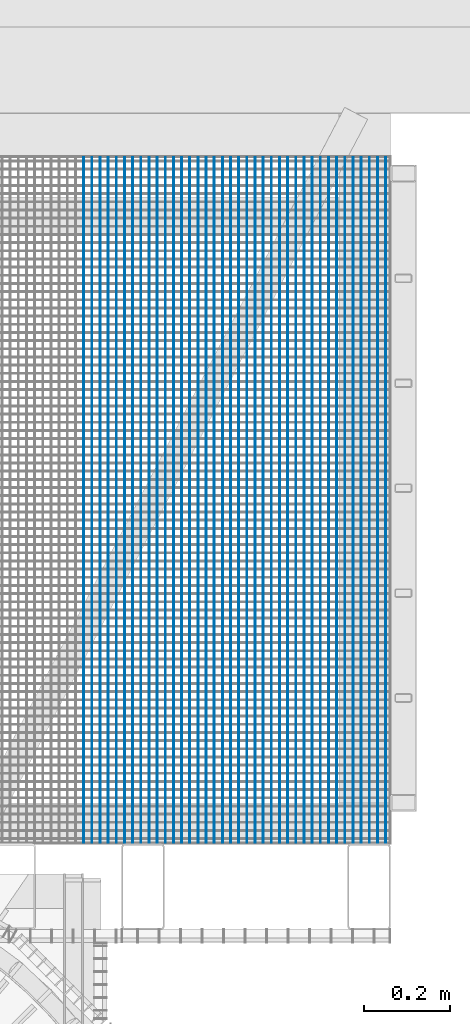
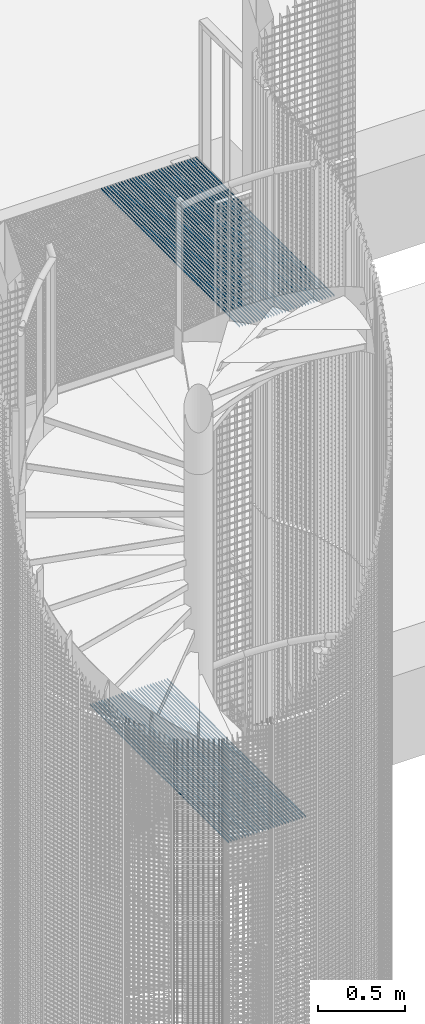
# One storey, part 101 of 1148: 62 beams, 2 elements without a shape of their own.
"""IFC2X3 building model written with IfcOpenShell, lengths in millimetres."""

from ifc_helpers import new_model, si_unit, frame, origin_with_axes, origin_2d_with_axis, place, context, subcontext, project, spatial, rectangle, extrude, material, type_object, element, aggregate, save


model = new_model("IFC2X3")

# Units and contexts
model_context = context("Model", 3, precision=1e-05, world=origin_with_axes())
body_context = subcontext(model_context, "Body", "Model", "MODEL_VIEW")
ifc_project = project(units=[si_unit("LENGTHUNIT", "METRE", prefix="MILLI"), si_unit("AREAUNIT", "SQUARE_METRE"), si_unit("VOLUMEUNIT", "CUBIC_METRE"), si_unit("MASSUNIT", "GRAM", prefix="KILO"), si_unit("TIMEUNIT", "SECOND"), si_unit("PLANEANGLEUNIT", "RADIAN"), si_unit("SOLIDANGLEUNIT", "STERADIAN"), si_unit("THERMODYNAMICTEMPERATUREUNIT", "DEGREE_CELSIUS"), si_unit("LUMINOUSINTENSITYUNIT", "LUMEN")], contexts=[model_context])

# Site, building, storey
site_placement = place(None, origin_with_axes())
site = spatial("IfcSite", under=ifc_project, at=site_placement, Name="Undefined", CompositionType="ELEMENT")
building_placement = place(site_placement, origin_with_axes())
building = spatial("IfcBuilding", under=site, at=building_placement, Name="Undefined", CompositionType="ELEMENT")
storey_placement = place(building_placement, origin_with_axes())
storey = spatial("IfcBuildingStorey", under=building, at=storey_placement, Name="Undefined", CompositionType="ELEMENT", Elevation=0.0)

# Assembly, beams
assembly_1_placement = place(storey_placement, origin_with_axes())
assembly_1 = element("IfcElementAssembly", 1, at=assembly_1_placement, inside=storey, Name="BORDURE", AssemblyPlace="NOTDEFINED", PredefinedType="NOTDEFINED")
ifc_material = material(Name="STEEL/S235JR")
beam_type = type_object("IfcBeamType", Name="PL2*10", PredefinedType="NOTDEFINED")
beam_1_placement = place(assembly_1_placement, frame((22512.1154247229, 1102.00680788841, 10085.0), z_axis=(0.0, 0.0, 1.0), x_axis=(-4.50599999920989e-06, 0.999999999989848, 0.0)))
beam_1 = element("IfcBeam", 2, at=beam_1_placement, type_object=beam_type, material=ifc_material, Name="ENTRETOISE", context=body_context, shape_type="SweptSolid", body=[
    extrude(rectangle(XDim=2.0, YDim=10.0, at=origin_2d_with_axis()), frame((1596.0000000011, -1.35186458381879e-18, -7.27595761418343e-12), z_axis=(-1.0, 0.0, 0.0), x_axis=(0.0, -1.0, 0.0)), (0.0, 0.0, 1.0), 1596.0),
])
beam_2_placement = place(assembly_1_placement, frame((22531.1154247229, 1102.00690140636, 10085.0), z_axis=(0.0, 0.0, 1.0), x_axis=(-4.50599999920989e-06, 0.999999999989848, 0.0)))
beam_2 = element("IfcBeam", 3, at=beam_2_placement, type_object=beam_type, material=ifc_material, Name="ENTRETOISE", context=body_context, shape_type="SweptSolid", body=[
    extrude(rectangle(XDim=2.0, YDim=10.0, at=origin_2d_with_axis()), frame((1596.0000000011, -1.35186458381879e-18, -7.27595761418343e-12), z_axis=(-1.0, 0.0, 0.0), x_axis=(0.0, -1.0, 0.0)), (0.0, 0.0, 1.0), 1596.0),
])
beam_3_placement = place(assembly_1_placement, frame((22550.1154247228, 1102.00699492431, 10085.0), z_axis=(0.0, 0.0, 1.0), x_axis=(-4.50599999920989e-06, 0.999999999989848, 0.0)))
beam_3 = element("IfcBeam", 4, at=beam_3_placement, type_object=beam_type, material=ifc_material, Name="ENTRETOISE", context=body_context, shape_type="SweptSolid", body=[
    extrude(rectangle(XDim=2.0, YDim=10.0, at=origin_2d_with_axis()), frame((1596.0000000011, -1.35186458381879e-18, -7.27595761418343e-12), z_axis=(-1.0, 0.0, 0.0), x_axis=(0.0, -1.0, 0.0)), (0.0, 0.0, 1.0), 1596.0),
])
beam_4_placement = place(assembly_1_placement, frame((22569.1154247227, 1102.00708844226, 10085.0), z_axis=(0.0, 0.0, 1.0), x_axis=(-4.50599999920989e-06, 0.999999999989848, 0.0)))
beam_4 = element("IfcBeam", 5, at=beam_4_placement, type_object=beam_type, material=ifc_material, Name="ENTRETOISE", context=body_context, shape_type="SweptSolid", body=[
    extrude(rectangle(XDim=2.0, YDim=10.0, at=origin_2d_with_axis()), frame((1596.0000000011, -1.35186458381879e-18, -7.27595761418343e-12), z_axis=(-1.0, 0.0, 0.0), x_axis=(0.0, -1.0, 0.0)), (0.0, 0.0, 1.0), 1596.0),
])
beam_5_placement = place(assembly_1_placement, frame((22588.1154247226, 1102.00718196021, 10085.0), z_axis=(0.0, 0.0, 1.0), x_axis=(-4.50599999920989e-06, 0.999999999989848, 0.0)))
beam_5 = element("IfcBeam", 6, at=beam_5_placement, type_object=beam_type, material=ifc_material, Name="ENTRETOISE", context=body_context, shape_type="SweptSolid", body=[
    extrude(rectangle(XDim=2.0, YDim=10.0, at=origin_2d_with_axis()), frame((1596.0000000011, -1.35186458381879e-18, -7.27595761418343e-12), z_axis=(-1.0, 0.0, 0.0), x_axis=(0.0, -1.0, 0.0)), (0.0, 0.0, 1.0), 1596.0),
])
beam_6_placement = place(assembly_1_placement, frame((22607.1154247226, 1102.00727547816, 10085.0), z_axis=(0.0, 0.0, 1.0), x_axis=(-4.50599999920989e-06, 0.999999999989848, 0.0)))
beam_6 = element("IfcBeam", 7, at=beam_6_placement, type_object=beam_type, material=ifc_material, Name="ENTRETOISE", context=body_context, shape_type="SweptSolid", body=[
    extrude(rectangle(XDim=2.0, YDim=10.0, at=origin_2d_with_axis()), frame((1596.0000000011, -1.35186458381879e-18, -7.27595761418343e-12), z_axis=(-1.0, 0.0, 0.0), x_axis=(0.0, -1.0, 0.0)), (0.0, 0.0, 1.0), 1596.0),
])
beam_7_placement = place(assembly_1_placement, frame((22626.1154247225, 1102.0073689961, 10085.0), z_axis=(0.0, 0.0, 1.0), x_axis=(-4.50599999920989e-06, 0.999999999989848, 0.0)))
beam_7 = element("IfcBeam", 8, at=beam_7_placement, type_object=beam_type, material=ifc_material, Name="ENTRETOISE", context=body_context, shape_type="SweptSolid", body=[
    extrude(rectangle(XDim=2.0, YDim=10.0, at=origin_2d_with_axis()), frame((1596.0000000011, -1.35186458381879e-18, -7.27595761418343e-12), z_axis=(-1.0, 0.0, 0.0), x_axis=(0.0, -1.0, 0.0)), (0.0, 0.0, 1.0), 1596.0),
])
beam_8_placement = place(assembly_1_placement, frame((22645.1154247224, 1102.00746251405, 10085.0), z_axis=(0.0, 0.0, 1.0), x_axis=(-4.50599999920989e-06, 0.999999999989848, 0.0)))
beam_8 = element("IfcBeam", 9, at=beam_8_placement, type_object=beam_type, material=ifc_material, Name="ENTRETOISE", context=body_context, shape_type="SweptSolid", body=[
    extrude(rectangle(XDim=2.0, YDim=10.0, at=origin_2d_with_axis()), frame((1596.0000000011, -1.35186458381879e-18, -7.27595761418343e-12), z_axis=(-1.0, 0.0, 0.0), x_axis=(0.0, -1.0, 0.0)), (0.0, 0.0, 1.0), 1596.0),
])
beam_9_placement = place(assembly_1_placement, frame((22664.1154247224, 1102.007556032, 10085.0), z_axis=(0.0, 0.0, 1.0), x_axis=(-4.50599999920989e-06, 0.999999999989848, 0.0)))
beam_9 = element("IfcBeam", 10, at=beam_9_placement, type_object=beam_type, material=ifc_material, Name="ENTRETOISE", context=body_context, shape_type="SweptSolid", body=[
    extrude(rectangle(XDim=2.0, YDim=10.0, at=origin_2d_with_axis()), frame((1596.0000000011, -1.35186458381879e-18, -7.27595761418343e-12), z_axis=(-1.0, 0.0, 0.0), x_axis=(0.0, -1.0, 0.0)), (0.0, 0.0, 1.0), 1596.0),
])
beam_10_placement = place(assembly_1_placement, frame((22683.1154247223, 1102.00764954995, 10085.0), z_axis=(0.0, 0.0, 1.0), x_axis=(-4.50599999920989e-06, 0.999999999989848, 0.0)))
beam_10 = element("IfcBeam", 11, at=beam_10_placement, type_object=beam_type, material=ifc_material, Name="ENTRETOISE", context=body_context, shape_type="SweptSolid", body=[
    extrude(rectangle(XDim=2.0, YDim=10.0, at=origin_2d_with_axis()), frame((1596.0000000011, -1.35186458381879e-18, -7.27595761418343e-12), z_axis=(-1.0, 0.0, 0.0), x_axis=(0.0, -1.0, 0.0)), (0.0, 0.0, 1.0), 1596.0),
])
beam_11_placement = place(assembly_1_placement, frame((22702.1154247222, 1102.0077430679, 10085.0), z_axis=(0.0, 0.0, 1.0), x_axis=(-4.50599999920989e-06, 0.999999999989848, 0.0)))
beam_11 = element("IfcBeam", 12, at=beam_11_placement, type_object=beam_type, material=ifc_material, Name="ENTRETOISE", context=body_context, shape_type="SweptSolid", body=[
    extrude(rectangle(XDim=2.0, YDim=10.0, at=origin_2d_with_axis()), frame((1596.0000000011, -1.35186458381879e-18, -7.27595761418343e-12), z_axis=(-1.0, 0.0, 0.0), x_axis=(0.0, -1.0, 0.0)), (0.0, 0.0, 1.0), 1596.0),
])
beam_12_placement = place(assembly_1_placement, frame((22721.1154247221, 1102.00783658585, 10085.0), z_axis=(0.0, 0.0, 1.0), x_axis=(-4.50599999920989e-06, 0.999999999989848, 0.0)))
beam_12 = element("IfcBeam", 13, at=beam_12_placement, type_object=beam_type, material=ifc_material, Name="ENTRETOISE", context=body_context, shape_type="SweptSolid", body=[
    extrude(rectangle(XDim=2.0, YDim=10.0, at=origin_2d_with_axis()), frame((1596.0000000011, -1.35186458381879e-18, -7.27595761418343e-12), z_axis=(-1.0, 0.0, 0.0), x_axis=(0.0, -1.0, 0.0)), (0.0, 0.0, 1.0), 1596.0),
])
beam_13_placement = place(assembly_1_placement, frame((22740.1154247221, 1102.0079301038, 10085.0), z_axis=(0.0, 0.0, 1.0), x_axis=(-4.50599999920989e-06, 0.999999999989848, 0.0)))
beam_13 = element("IfcBeam", 14, at=beam_13_placement, type_object=beam_type, material=ifc_material, Name="ENTRETOISE", context=body_context, shape_type="SweptSolid", body=[
    extrude(rectangle(XDim=2.0, YDim=10.0, at=origin_2d_with_axis()), frame((1596.0000000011, -1.35186458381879e-18, -7.27595761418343e-12), z_axis=(-1.0, 0.0, 0.0), x_axis=(0.0, -1.0, 0.0)), (0.0, 0.0, 1.0), 1596.0),
])
beam_14_placement = place(assembly_1_placement, frame((22759.115424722, 1102.00802362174, 10085.0), z_axis=(0.0, 0.0, 1.0), x_axis=(-4.50599999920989e-06, 0.999999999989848, 0.0)))
beam_14 = element("IfcBeam", 15, at=beam_14_placement, type_object=beam_type, material=ifc_material, Name="ENTRETOISE", context=body_context, shape_type="SweptSolid", body=[
    extrude(rectangle(XDim=2.0, YDim=10.0, at=origin_2d_with_axis()), frame((1596.0000000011, -1.35186458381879e-18, -7.27595761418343e-12), z_axis=(-1.0, 0.0, 0.0), x_axis=(0.0, -1.0, 0.0)), (0.0, 0.0, 1.0), 1596.0),
])
beam_15_placement = place(assembly_1_placement, frame((22778.1154247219, 1102.00811713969, 10085.0), z_axis=(0.0, 0.0, 1.0), x_axis=(-4.50599999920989e-06, 0.999999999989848, 0.0)))
beam_15 = element("IfcBeam", 16, at=beam_15_placement, type_object=beam_type, material=ifc_material, Name="ENTRETOISE", context=body_context, shape_type="SweptSolid", body=[
    extrude(rectangle(XDim=2.0, YDim=10.0, at=origin_2d_with_axis()), frame((1596.0000000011, -1.35186458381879e-18, -7.27595761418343e-12), z_axis=(-1.0, 0.0, 0.0), x_axis=(0.0, -1.0, 0.0)), (0.0, 0.0, 1.0), 1596.0),
])
beam_16_placement = place(assembly_1_placement, frame((22797.1154247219, 1102.00821065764, 10085.0), z_axis=(0.0, 0.0, 1.0), x_axis=(-4.50599999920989e-06, 0.999999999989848, 0.0)))
beam_16 = element("IfcBeam", 17, at=beam_16_placement, type_object=beam_type, material=ifc_material, Name="ENTRETOISE", context=body_context, shape_type="SweptSolid", body=[
    extrude(rectangle(XDim=2.0, YDim=10.0, at=origin_2d_with_axis()), frame((1596.0000000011, -1.35186458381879e-18, -7.27595761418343e-12), z_axis=(-1.0, 0.0, 0.0), x_axis=(0.0, -1.0, 0.0)), (0.0, 0.0, 1.0), 1596.0),
])
beam_17_placement = place(assembly_1_placement, frame((22816.1154247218, 1102.00830417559, 10085.0), z_axis=(0.0, 0.0, 1.0), x_axis=(-4.50599999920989e-06, 0.999999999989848, 0.0)))
beam_17 = element("IfcBeam", 18, at=beam_17_placement, type_object=beam_type, material=ifc_material, Name="ENTRETOISE", context=body_context, shape_type="SweptSolid", body=[
    extrude(rectangle(XDim=2.0, YDim=10.0, at=origin_2d_with_axis()), frame((1596.0000000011, -1.35186458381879e-18, -7.27595761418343e-12), z_axis=(-1.0, 0.0, 0.0), x_axis=(0.0, -1.0, 0.0)), (0.0, 0.0, 1.0), 1596.0),
])
beam_18_placement = place(assembly_1_placement, frame((22835.1154247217, 1102.00839769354, 10085.0), z_axis=(0.0, 0.0, 1.0), x_axis=(-4.50599999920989e-06, 0.999999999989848, 0.0)))
beam_18 = element("IfcBeam", 19, at=beam_18_placement, type_object=beam_type, material=ifc_material, Name="ENTRETOISE", context=body_context, shape_type="SweptSolid", body=[
    extrude(rectangle(XDim=2.0, YDim=10.0, at=origin_2d_with_axis()), frame((1596.0000000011, -1.35186458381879e-18, -7.27595761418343e-12), z_axis=(-1.0, 0.0, 0.0), x_axis=(0.0, -1.0, 0.0)), (0.0, 0.0, 1.0), 1596.0),
])
beam_19_placement = place(assembly_1_placement, frame((22854.1154247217, 1102.00849121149, 10085.0), z_axis=(0.0, 0.0, 1.0), x_axis=(-4.50599999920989e-06, 0.999999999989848, 0.0)))
beam_19 = element("IfcBeam", 20, at=beam_19_placement, type_object=beam_type, material=ifc_material, Name="ENTRETOISE", context=body_context, shape_type="SweptSolid", body=[
    extrude(rectangle(XDim=2.0, YDim=10.0, at=origin_2d_with_axis()), frame((1596.0000000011, -1.35186458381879e-18, -7.27595761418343e-12), z_axis=(-1.0, 0.0, 0.0), x_axis=(0.0, -1.0, 0.0)), (0.0, 0.0, 1.0), 1596.0),
])
beam_20_placement = place(assembly_1_placement, frame((22873.1154247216, 1102.00858472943, 10085.0), z_axis=(0.0, 0.0, 1.0), x_axis=(-4.50599999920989e-06, 0.999999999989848, 0.0)))
beam_20 = element("IfcBeam", 21, at=beam_20_placement, type_object=beam_type, material=ifc_material, Name="ENTRETOISE", context=body_context, shape_type="SweptSolid", body=[
    extrude(rectangle(XDim=2.0, YDim=10.0, at=origin_2d_with_axis()), frame((1596.0000000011, -1.35186458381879e-18, -7.27595761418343e-12), z_axis=(-1.0, 0.0, 0.0), x_axis=(0.0, -1.0, 0.0)), (0.0, 0.0, 1.0), 1596.0),
])
beam_21_placement = place(assembly_1_placement, frame((22892.1154247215, 1102.00867824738, 10085.0), z_axis=(0.0, 0.0, 1.0), x_axis=(-4.50599999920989e-06, 0.999999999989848, 0.0)))
beam_21 = element("IfcBeam", 22, at=beam_21_placement, type_object=beam_type, material=ifc_material, Name="ENTRETOISE", context=body_context, shape_type="SweptSolid", body=[
    extrude(rectangle(XDim=2.0, YDim=10.0, at=origin_2d_with_axis()), frame((1596.0000000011, -1.35186458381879e-18, -7.27595761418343e-12), z_axis=(-1.0, 0.0, 0.0), x_axis=(0.0, -1.0, 0.0)), (0.0, 0.0, 1.0), 1596.0),
])
beam_22_placement = place(assembly_1_placement, frame((22911.1154247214, 1102.00877176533, 10085.0), z_axis=(0.0, 0.0, 1.0), x_axis=(-4.50599999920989e-06, 0.999999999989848, 0.0)))
beam_22 = element("IfcBeam", 23, at=beam_22_placement, type_object=beam_type, material=ifc_material, Name="ENTRETOISE", context=body_context, shape_type="SweptSolid", body=[
    extrude(rectangle(XDim=2.0, YDim=10.0, at=origin_2d_with_axis()), frame((1596.0000000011, -1.35186458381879e-18, -7.27595761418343e-12), z_axis=(-1.0, 0.0, 0.0), x_axis=(0.0, -1.0, 0.0)), (0.0, 0.0, 1.0), 1596.0),
])
beam_23_placement = place(assembly_1_placement, frame((22930.1154247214, 1102.00886528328, 10085.0), z_axis=(0.0, 0.0, 1.0), x_axis=(-4.50599999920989e-06, 0.999999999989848, 0.0)))
beam_23 = element("IfcBeam", 24, at=beam_23_placement, type_object=beam_type, material=ifc_material, Name="ENTRETOISE", context=body_context, shape_type="SweptSolid", body=[
    extrude(rectangle(XDim=2.0, YDim=10.0, at=origin_2d_with_axis()), frame((1596.0000000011, -1.35186458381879e-18, -7.27595761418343e-12), z_axis=(-1.0, 0.0, 0.0), x_axis=(0.0, -1.0, 0.0)), (0.0, 0.0, 1.0), 1596.0),
])
beam_24_placement = place(assembly_1_placement, frame((22949.1154247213, 1102.00895880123, 10085.0), z_axis=(0.0, 0.0, 1.0), x_axis=(-4.50599999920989e-06, 0.999999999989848, 0.0)))
beam_24 = element("IfcBeam", 25, at=beam_24_placement, type_object=beam_type, material=ifc_material, Name="ENTRETOISE", context=body_context, shape_type="SweptSolid", body=[
    extrude(rectangle(XDim=2.0, YDim=10.0, at=origin_2d_with_axis()), frame((1596.0000000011, -1.35186458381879e-18, -7.27595761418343e-12), z_axis=(-1.0, 0.0, 0.0), x_axis=(0.0, -1.0, 0.0)), (0.0, 0.0, 1.0), 1596.0),
])
beam_25_placement = place(assembly_1_placement, frame((22968.1154247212, 1102.00905231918, 10085.0), z_axis=(0.0, 0.0, 1.0), x_axis=(-4.50599999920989e-06, 0.999999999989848, 0.0)))
beam_25 = element("IfcBeam", 26, at=beam_25_placement, type_object=beam_type, material=ifc_material, Name="ENTRETOISE", context=body_context, shape_type="SweptSolid", body=[
    extrude(rectangle(XDim=2.0, YDim=10.0, at=origin_2d_with_axis()), frame((1596.0000000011, -1.35186458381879e-18, -7.27595761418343e-12), z_axis=(-1.0, 0.0, 0.0), x_axis=(0.0, -1.0, 0.0)), (0.0, 0.0, 1.0), 1596.0),
])
beam_26_placement = place(assembly_1_placement, frame((22987.1154247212, 1102.00914583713, 10085.0), z_axis=(0.0, 0.0, 1.0), x_axis=(-4.50599999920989e-06, 0.999999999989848, 0.0)))
beam_26 = element("IfcBeam", 27, at=beam_26_placement, type_object=beam_type, material=ifc_material, Name="ENTRETOISE", context=body_context, shape_type="SweptSolid", body=[
    extrude(rectangle(XDim=2.0, YDim=10.0, at=origin_2d_with_axis()), frame((1596.0000000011, -1.35186458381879e-18, -7.27595761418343e-12), z_axis=(-1.0, 0.0, 0.0), x_axis=(0.0, -1.0, 0.0)), (0.0, 0.0, 1.0), 1596.0),
])
beam_27_placement = place(assembly_1_placement, frame((23006.1154247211, 1102.00923935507, 10085.0), z_axis=(0.0, 0.0, 1.0), x_axis=(-4.50599999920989e-06, 0.999999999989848, 0.0)))
beam_27 = element("IfcBeam", 28, at=beam_27_placement, type_object=beam_type, material=ifc_material, Name="ENTRETOISE", context=body_context, shape_type="SweptSolid", body=[
    extrude(rectangle(XDim=2.0, YDim=10.0, at=origin_2d_with_axis()), frame((1596.0000000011, -1.35186458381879e-18, -7.27595761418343e-12), z_axis=(-1.0, 0.0, 0.0), x_axis=(0.0, -1.0, 0.0)), (0.0, 0.0, 1.0), 1596.0),
])
beam_28_placement = place(assembly_1_placement, frame((23025.115424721, 1102.00933287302, 10085.0), z_axis=(0.0, 0.0, 1.0), x_axis=(-4.50599999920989e-06, 0.999999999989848, 0.0)))
beam_28 = element("IfcBeam", 29, at=beam_28_placement, type_object=beam_type, material=ifc_material, Name="ENTRETOISE", context=body_context, shape_type="SweptSolid", body=[
    extrude(rectangle(XDim=2.0, YDim=10.0, at=origin_2d_with_axis()), frame((1596.0000000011, -1.35186458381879e-18, -7.27595761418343e-12), z_axis=(-1.0, 0.0, 0.0), x_axis=(0.0, -1.0, 0.0)), (0.0, 0.0, 1.0), 1596.0),
])
beam_29_placement = place(assembly_1_placement, frame((23044.1154247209, 1102.00942639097, 10085.0), z_axis=(0.0, 0.0, 1.0), x_axis=(-4.50599999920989e-06, 0.999999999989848, 0.0)))
beam_29 = element("IfcBeam", 30, at=beam_29_placement, type_object=beam_type, material=ifc_material, Name="ENTRETOISE", context=body_context, shape_type="SweptSolid", body=[
    extrude(rectangle(XDim=2.0, YDim=10.0, at=origin_2d_with_axis()), frame((1596.0000000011, -1.35186458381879e-18, -7.27595761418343e-12), z_axis=(-1.0, 0.0, 0.0), x_axis=(0.0, -1.0, 0.0)), (0.0, 0.0, 1.0), 1596.0),
])
beam_30_placement = place(assembly_1_placement, frame((23063.1154247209, 1102.00951990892, 10085.0), z_axis=(0.0, 0.0, 1.0), x_axis=(-4.50599999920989e-06, 0.999999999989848, 0.0)))
beam_30 = element("IfcBeam", 31, at=beam_30_placement, type_object=beam_type, material=ifc_material, Name="ENTRETOISE", context=body_context, shape_type="SweptSolid", body=[
    extrude(rectangle(XDim=2.0, YDim=10.0, at=origin_2d_with_axis()), frame((1596.0000000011, -1.35186458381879e-18, -7.27595761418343e-12), z_axis=(-1.0, 0.0, 0.0), x_axis=(0.0, -1.0, 0.0)), (0.0, 0.0, 1.0), 1596.0),
])
beam_31_placement = place(assembly_1_placement, frame((23082.1154247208, 1102.00961342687, 10085.0), z_axis=(0.0, 0.0, 1.0), x_axis=(-4.50599999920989e-06, 0.999999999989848, 0.0)))
beam_31 = element("IfcBeam", 32, at=beam_31_placement, type_object=beam_type, material=ifc_material, Name="ENTRETOISE", context=body_context, shape_type="SweptSolid", body=[
    extrude(rectangle(XDim=2.0, YDim=10.0, at=origin_2d_with_axis()), frame((1596.0000000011, -1.35186458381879e-18, -7.27595761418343e-12), z_axis=(-1.0, 0.0, 0.0), x_axis=(0.0, -1.0, 0.0)), (0.0, 0.0, 1.0), 1596.0),
])
beam_32_placement = place(assembly_1_placement, frame((23101.1154247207, 1102.00970694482, 10085.0), z_axis=(0.0, 0.0, 1.0), x_axis=(-4.50599999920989e-06, 0.999999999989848, 0.0)))
beam_32 = element("IfcBeam", 33, at=beam_32_placement, type_object=beam_type, material=ifc_material, Name="ENTRETOISE", context=body_context, shape_type="SweptSolid", body=[
    extrude(rectangle(XDim=2.0, YDim=10.0, at=origin_2d_with_axis()), frame((1596.0000000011, -1.35186458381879e-18, -7.27595761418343e-12), z_axis=(-1.0, 0.0, 0.0), x_axis=(0.0, -1.0, 0.0)), (0.0, 0.0, 1.0), 1596.0),
])
beam_33_placement = place(assembly_1_placement, frame((23120.1154247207, 1102.00980046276, 10085.0), z_axis=(0.0, 0.0, 1.0), x_axis=(-4.50599999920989e-06, 0.999999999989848, 0.0)))
beam_33 = element("IfcBeam", 34, at=beam_33_placement, type_object=beam_type, material=ifc_material, Name="ENTRETOISE", context=body_context, shape_type="SweptSolid", body=[
    extrude(rectangle(XDim=2.0, YDim=10.0, at=origin_2d_with_axis()), frame((1596.0000000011, -1.35186458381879e-18, -7.27595761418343e-12), z_axis=(-1.0, 0.0, 0.0), x_axis=(0.0, -1.0, 0.0)), (0.0, 0.0, 1.0), 1596.0),
])
beam_34_placement = place(assembly_1_placement, frame((23139.1154247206, 1102.00989398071, 10085.0), z_axis=(0.0, 0.0, 1.0), x_axis=(-4.50599999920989e-06, 0.999999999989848, 0.0)))
beam_34 = element("IfcBeam", 35, at=beam_34_placement, type_object=beam_type, material=ifc_material, Name="ENTRETOISE", context=body_context, shape_type="SweptSolid", body=[
    extrude(rectangle(XDim=2.0, YDim=10.0, at=origin_2d_with_axis()), frame((1596.0000000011, -1.35186458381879e-18, -7.27595761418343e-12), z_axis=(-1.0, 0.0, 0.0), x_axis=(0.0, -1.0, 0.0)), (0.0, 0.0, 1.0), 1596.0),
])
aggregate(assembly_1, [beam_1, beam_2, beam_3, beam_4, beam_5, beam_6, beam_7, beam_8, beam_9, beam_10, beam_11, beam_12, beam_13, beam_14, beam_15, beam_16, beam_17, beam_18, beam_19, beam_20, beam_21, beam_22, beam_23, beam_24, beam_25, beam_26, beam_27, beam_28, beam_29, beam_30, beam_31, beam_32, beam_33, beam_34])

assembly_2_placement = place(storey_placement, origin_with_axes())
assembly_2 = element("IfcElementAssembly", 36, at=assembly_2_placement, inside=storey, Name="BORDURE", AssemblyPlace="NOTDEFINED", PredefinedType="NOTDEFINED")
beam_35_placement = place(assembly_2_placement, frame((22436.1154247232, 1102.00643381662, 6485.0), z_axis=(0.0, 0.0, 1.0), x_axis=(-4.50599999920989e-06, 0.999999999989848, 0.0)))
beam_35 = element("IfcBeam", 37, at=beam_35_placement, type_object=beam_type, material=ifc_material, Name="ENTRETOISE", context=body_context, shape_type="SweptSolid", body=[
    extrude(rectangle(XDim=2.0, YDim=10.0, at=origin_2d_with_axis()), frame((1596.0000000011, -1.35186458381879e-18, -7.27595761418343e-12), z_axis=(-1.0, 0.0, 0.0), x_axis=(0.0, -1.0, 0.0)), (0.0, 0.0, 1.0), 1596.0),
])
beam_36_placement = place(assembly_2_placement, frame((22455.1154247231, 1102.00652733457, 6485.0), z_axis=(0.0, 0.0, 1.0), x_axis=(-4.50599999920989e-06, 0.999999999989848, 0.0)))
beam_36 = element("IfcBeam", 38, at=beam_36_placement, type_object=beam_type, material=ifc_material, Name="ENTRETOISE", context=body_context, shape_type="SweptSolid", body=[
    extrude(rectangle(XDim=2.0, YDim=10.0, at=origin_2d_with_axis()), frame((1596.0000000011, -1.35186458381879e-18, -7.27595761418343e-12), z_axis=(-1.0, 0.0, 0.0), x_axis=(0.0, -1.0, 0.0)), (0.0, 0.0, 1.0), 1596.0),
])
beam_37_placement = place(assembly_2_placement, frame((22474.1154247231, 1102.00662085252, 6485.0), z_axis=(0.0, 0.0, 1.0), x_axis=(-4.50599999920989e-06, 0.999999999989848, 0.0)))
beam_37 = element("IfcBeam", 39, at=beam_37_placement, type_object=beam_type, material=ifc_material, Name="ENTRETOISE", context=body_context, shape_type="SweptSolid", body=[
    extrude(rectangle(XDim=2.0, YDim=10.0, at=origin_2d_with_axis()), frame((1596.0000000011, -1.35186458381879e-18, -7.27595761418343e-12), z_axis=(-1.0, 0.0, 0.0), x_axis=(0.0, -1.0, 0.0)), (0.0, 0.0, 1.0), 1596.0),
])
beam_38_placement = place(assembly_2_placement, frame((22493.115424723, 1102.00671437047, 6485.0), z_axis=(0.0, 0.0, 1.0), x_axis=(-4.50599999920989e-06, 0.999999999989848, 0.0)))
beam_38 = element("IfcBeam", 40, at=beam_38_placement, type_object=beam_type, material=ifc_material, Name="ENTRETOISE", context=body_context, shape_type="SweptSolid", body=[
    extrude(rectangle(XDim=2.0, YDim=10.0, at=origin_2d_with_axis()), frame((1596.0000000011, -1.35186458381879e-18, -7.27595761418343e-12), z_axis=(-1.0, 0.0, 0.0), x_axis=(0.0, -1.0, 0.0)), (0.0, 0.0, 1.0), 1596.0),
])
beam_39_placement = place(assembly_2_placement, frame((22512.1154247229, 1102.00680788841, 6485.0), z_axis=(0.0, 0.0, 1.0), x_axis=(-4.50599999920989e-06, 0.999999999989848, 0.0)))
beam_39 = element("IfcBeam", 41, at=beam_39_placement, type_object=beam_type, material=ifc_material, Name="ENTRETOISE", context=body_context, shape_type="SweptSolid", body=[
    extrude(rectangle(XDim=2.0, YDim=10.0, at=origin_2d_with_axis()), frame((1596.0000000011, -1.35186458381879e-18, -7.27595761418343e-12), z_axis=(-1.0, 0.0, 0.0), x_axis=(0.0, -1.0, 0.0)), (0.0, 0.0, 1.0), 1596.0),
])
beam_40_placement = place(assembly_2_placement, frame((22531.1154247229, 1102.00690140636, 6485.0), z_axis=(0.0, 0.0, 1.0), x_axis=(-4.50599999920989e-06, 0.999999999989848, 0.0)))
beam_40 = element("IfcBeam", 42, at=beam_40_placement, type_object=beam_type, material=ifc_material, Name="ENTRETOISE", context=body_context, shape_type="SweptSolid", body=[
    extrude(rectangle(XDim=2.0, YDim=10.0, at=origin_2d_with_axis()), frame((1596.0000000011, -1.35186458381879e-18, -7.27595761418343e-12), z_axis=(-1.0, 0.0, 0.0), x_axis=(0.0, -1.0, 0.0)), (0.0, 0.0, 1.0), 1596.0),
])
beam_41_placement = place(assembly_2_placement, frame((22550.1154247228, 1102.00699492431, 6485.0), z_axis=(0.0, 0.0, 1.0), x_axis=(-4.50599999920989e-06, 0.999999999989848, 0.0)))
beam_41 = element("IfcBeam", 43, at=beam_41_placement, type_object=beam_type, material=ifc_material, Name="ENTRETOISE", context=body_context, shape_type="SweptSolid", body=[
    extrude(rectangle(XDim=2.0, YDim=10.0, at=origin_2d_with_axis()), frame((1596.0000000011, -1.35186458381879e-18, -7.27595761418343e-12), z_axis=(-1.0, 0.0, 0.0), x_axis=(0.0, -1.0, 0.0)), (0.0, 0.0, 1.0), 1596.0),
])
beam_42_placement = place(assembly_2_placement, frame((22569.1154247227, 1102.00708844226, 6485.0), z_axis=(0.0, 0.0, 1.0), x_axis=(-4.50599999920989e-06, 0.999999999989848, 0.0)))
beam_42 = element("IfcBeam", 44, at=beam_42_placement, type_object=beam_type, material=ifc_material, Name="ENTRETOISE", context=body_context, shape_type="SweptSolid", body=[
    extrude(rectangle(XDim=2.0, YDim=10.0, at=origin_2d_with_axis()), frame((1596.0000000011, -1.35186458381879e-18, -7.27595761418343e-12), z_axis=(-1.0, 0.0, 0.0), x_axis=(0.0, -1.0, 0.0)), (0.0, 0.0, 1.0), 1596.0),
])
beam_43_placement = place(assembly_2_placement, frame((22588.1154247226, 1102.00718196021, 6485.0), z_axis=(0.0, 0.0, 1.0), x_axis=(-4.50599999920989e-06, 0.999999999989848, 0.0)))
beam_43 = element("IfcBeam", 45, at=beam_43_placement, type_object=beam_type, material=ifc_material, Name="ENTRETOISE", context=body_context, shape_type="SweptSolid", body=[
    extrude(rectangle(XDim=2.0, YDim=10.0, at=origin_2d_with_axis()), frame((1596.0000000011, -1.35186458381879e-18, -7.27595761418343e-12), z_axis=(-1.0, 0.0, 0.0), x_axis=(0.0, -1.0, 0.0)), (0.0, 0.0, 1.0), 1596.0),
])
beam_44_placement = place(assembly_2_placement, frame((22607.1154247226, 1102.00727547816, 6485.0), z_axis=(0.0, 0.0, 1.0), x_axis=(-4.50599999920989e-06, 0.999999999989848, 0.0)))
beam_44 = element("IfcBeam", 46, at=beam_44_placement, type_object=beam_type, material=ifc_material, Name="ENTRETOISE", context=body_context, shape_type="SweptSolid", body=[
    extrude(rectangle(XDim=2.0, YDim=10.0, at=origin_2d_with_axis()), frame((1596.0000000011, -1.35186458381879e-18, -7.27595761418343e-12), z_axis=(-1.0, 0.0, 0.0), x_axis=(0.0, -1.0, 0.0)), (0.0, 0.0, 1.0), 1596.0),
])
beam_45_placement = place(assembly_2_placement, frame((22626.1154247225, 1102.0073689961, 6485.0), z_axis=(0.0, 0.0, 1.0), x_axis=(-4.50599999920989e-06, 0.999999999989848, 0.0)))
beam_45 = element("IfcBeam", 47, at=beam_45_placement, type_object=beam_type, material=ifc_material, Name="ENTRETOISE", context=body_context, shape_type="SweptSolid", body=[
    extrude(rectangle(XDim=2.0, YDim=10.0, at=origin_2d_with_axis()), frame((1596.0000000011, -1.35186458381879e-18, -7.27595761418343e-12), z_axis=(-1.0, 0.0, 0.0), x_axis=(0.0, -1.0, 0.0)), (0.0, 0.0, 1.0), 1596.0),
])
beam_46_placement = place(assembly_2_placement, frame((22645.1154247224, 1102.00746251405, 6485.0), z_axis=(0.0, 0.0, 1.0), x_axis=(-4.50599999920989e-06, 0.999999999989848, 0.0)))
beam_46 = element("IfcBeam", 48, at=beam_46_placement, type_object=beam_type, material=ifc_material, Name="ENTRETOISE", context=body_context, shape_type="SweptSolid", body=[
    extrude(rectangle(XDim=2.0, YDim=10.0, at=origin_2d_with_axis()), frame((1596.0000000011, -1.35186458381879e-18, -7.27595761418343e-12), z_axis=(-1.0, 0.0, 0.0), x_axis=(0.0, -1.0, 0.0)), (0.0, 0.0, 1.0), 1596.0),
])
beam_47_placement = place(assembly_2_placement, frame((22664.1154247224, 1102.007556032, 6485.0), z_axis=(0.0, 0.0, 1.0), x_axis=(-4.50599999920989e-06, 0.999999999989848, 0.0)))
beam_47 = element("IfcBeam", 49, at=beam_47_placement, type_object=beam_type, material=ifc_material, Name="ENTRETOISE", context=body_context, shape_type="SweptSolid", body=[
    extrude(rectangle(XDim=2.0, YDim=10.0, at=origin_2d_with_axis()), frame((1596.0000000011, -1.35186458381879e-18, -7.27595761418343e-12), z_axis=(-1.0, 0.0, 0.0), x_axis=(0.0, -1.0, 0.0)), (0.0, 0.0, 1.0), 1596.0),
])
beam_48_placement = place(assembly_2_placement, frame((22683.1154247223, 1102.00764954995, 6485.0), z_axis=(0.0, 0.0, 1.0), x_axis=(-4.50599999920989e-06, 0.999999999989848, 0.0)))
beam_48 = element("IfcBeam", 50, at=beam_48_placement, type_object=beam_type, material=ifc_material, Name="ENTRETOISE", context=body_context, shape_type="SweptSolid", body=[
    extrude(rectangle(XDim=2.0, YDim=10.0, at=origin_2d_with_axis()), frame((1596.0000000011, -1.35186458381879e-18, -7.27595761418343e-12), z_axis=(-1.0, 0.0, 0.0), x_axis=(0.0, -1.0, 0.0)), (0.0, 0.0, 1.0), 1596.0),
])
beam_49_placement = place(assembly_2_placement, frame((22702.1154247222, 1102.0077430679, 6485.0), z_axis=(0.0, 0.0, 1.0), x_axis=(-4.50599999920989e-06, 0.999999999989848, 0.0)))
beam_49 = element("IfcBeam", 51, at=beam_49_placement, type_object=beam_type, material=ifc_material, Name="ENTRETOISE", context=body_context, shape_type="SweptSolid", body=[
    extrude(rectangle(XDim=2.0, YDim=10.0, at=origin_2d_with_axis()), frame((1596.0000000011, -1.35186458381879e-18, -7.27595761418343e-12), z_axis=(-1.0, 0.0, 0.0), x_axis=(0.0, -1.0, 0.0)), (0.0, 0.0, 1.0), 1596.0),
])
beam_50_placement = place(assembly_2_placement, frame((22721.1154247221, 1102.00783658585, 6485.0), z_axis=(0.0, 0.0, 1.0), x_axis=(-4.50599999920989e-06, 0.999999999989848, 0.0)))
beam_50 = element("IfcBeam", 52, at=beam_50_placement, type_object=beam_type, material=ifc_material, Name="ENTRETOISE", context=body_context, shape_type="SweptSolid", body=[
    extrude(rectangle(XDim=2.0, YDim=10.0, at=origin_2d_with_axis()), frame((1596.0000000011, -1.35186458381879e-18, -7.27595761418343e-12), z_axis=(-1.0, 0.0, 0.0), x_axis=(0.0, -1.0, 0.0)), (0.0, 0.0, 1.0), 1596.0),
])
beam_51_placement = place(assembly_2_placement, frame((22740.1154247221, 1102.0079301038, 6485.0), z_axis=(0.0, 0.0, 1.0), x_axis=(-4.50599999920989e-06, 0.999999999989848, 0.0)))
beam_51 = element("IfcBeam", 53, at=beam_51_placement, type_object=beam_type, material=ifc_material, Name="ENTRETOISE", context=body_context, shape_type="SweptSolid", body=[
    extrude(rectangle(XDim=2.0, YDim=10.0, at=origin_2d_with_axis()), frame((1596.0000000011, -1.35186458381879e-18, -7.27595761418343e-12), z_axis=(-1.0, 0.0, 0.0), x_axis=(0.0, -1.0, 0.0)), (0.0, 0.0, 1.0), 1596.0),
])
beam_52_placement = place(assembly_2_placement, frame((22759.115424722, 1102.00802362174, 6485.0), z_axis=(0.0, 0.0, 1.0), x_axis=(-4.50599999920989e-06, 0.999999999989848, 0.0)))
beam_52 = element("IfcBeam", 54, at=beam_52_placement, type_object=beam_type, material=ifc_material, Name="ENTRETOISE", context=body_context, shape_type="SweptSolid", body=[
    extrude(rectangle(XDim=2.0, YDim=10.0, at=origin_2d_with_axis()), frame((1596.0000000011, -1.35186458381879e-18, -7.27595761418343e-12), z_axis=(-1.0, 0.0, 0.0), x_axis=(0.0, -1.0, 0.0)), (0.0, 0.0, 1.0), 1596.0),
])
beam_53_placement = place(assembly_2_placement, frame((22778.1154247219, 1102.00811713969, 6485.0), z_axis=(0.0, 0.0, 1.0), x_axis=(-4.50599999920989e-06, 0.999999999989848, 0.0)))
beam_53 = element("IfcBeam", 55, at=beam_53_placement, type_object=beam_type, material=ifc_material, Name="ENTRETOISE", context=body_context, shape_type="SweptSolid", body=[
    extrude(rectangle(XDim=2.0, YDim=10.0, at=origin_2d_with_axis()), frame((1596.0000000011, -1.35186458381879e-18, -7.27595761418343e-12), z_axis=(-1.0, 0.0, 0.0), x_axis=(0.0, -1.0, 0.0)), (0.0, 0.0, 1.0), 1596.0),
])
beam_54_placement = place(assembly_2_placement, frame((22797.1154247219, 1102.00821065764, 6485.0), z_axis=(0.0, 0.0, 1.0), x_axis=(-4.50599999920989e-06, 0.999999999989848, 0.0)))
beam_54 = element("IfcBeam", 56, at=beam_54_placement, type_object=beam_type, material=ifc_material, Name="ENTRETOISE", context=body_context, shape_type="SweptSolid", body=[
    extrude(rectangle(XDim=2.0, YDim=10.0, at=origin_2d_with_axis()), frame((1596.0000000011, -1.35186458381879e-18, -7.27595761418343e-12), z_axis=(-1.0, 0.0, 0.0), x_axis=(0.0, -1.0, 0.0)), (0.0, 0.0, 1.0), 1596.0),
])
beam_55_placement = place(assembly_2_placement, frame((22816.1154247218, 1102.00830417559, 6485.0), z_axis=(0.0, 0.0, 1.0), x_axis=(-4.50599999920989e-06, 0.999999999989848, 0.0)))
beam_55 = element("IfcBeam", 57, at=beam_55_placement, type_object=beam_type, material=ifc_material, Name="ENTRETOISE", context=body_context, shape_type="SweptSolid", body=[
    extrude(rectangle(XDim=2.0, YDim=10.0, at=origin_2d_with_axis()), frame((1596.0000000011, -1.35186458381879e-18, -7.27595761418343e-12), z_axis=(-1.0, 0.0, 0.0), x_axis=(0.0, -1.0, 0.0)), (0.0, 0.0, 1.0), 1596.0),
])
beam_56_placement = place(assembly_2_placement, frame((22835.1154247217, 1102.00839769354, 6485.0), z_axis=(0.0, 0.0, 1.0), x_axis=(-4.50599999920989e-06, 0.999999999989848, 0.0)))
beam_56 = element("IfcBeam", 58, at=beam_56_placement, type_object=beam_type, material=ifc_material, Name="ENTRETOISE", context=body_context, shape_type="SweptSolid", body=[
    extrude(rectangle(XDim=2.0, YDim=10.0, at=origin_2d_with_axis()), frame((1596.0000000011, -1.35186458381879e-18, -7.27595761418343e-12), z_axis=(-1.0, 0.0, 0.0), x_axis=(0.0, -1.0, 0.0)), (0.0, 0.0, 1.0), 1596.0),
])
beam_57_placement = place(assembly_2_placement, frame((22854.1154247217, 1102.00849121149, 6485.0), z_axis=(0.0, 0.0, 1.0), x_axis=(-4.50599999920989e-06, 0.999999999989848, 0.0)))
beam_57 = element("IfcBeam", 59, at=beam_57_placement, type_object=beam_type, material=ifc_material, Name="ENTRETOISE", context=body_context, shape_type="SweptSolid", body=[
    extrude(rectangle(XDim=2.0, YDim=10.0, at=origin_2d_with_axis()), frame((1596.0000000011, -1.35186458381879e-18, -7.27595761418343e-12), z_axis=(-1.0, 0.0, 0.0), x_axis=(0.0, -1.0, 0.0)), (0.0, 0.0, 1.0), 1596.0),
])
beam_58_placement = place(assembly_2_placement, frame((22873.1154247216, 1102.00858472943, 6485.0), z_axis=(0.0, 0.0, 1.0), x_axis=(-4.50599999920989e-06, 0.999999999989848, 0.0)))
beam_58 = element("IfcBeam", 60, at=beam_58_placement, type_object=beam_type, material=ifc_material, Name="ENTRETOISE", context=body_context, shape_type="SweptSolid", body=[
    extrude(rectangle(XDim=2.0, YDim=10.0, at=origin_2d_with_axis()), frame((1596.0000000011, -1.35186458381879e-18, -7.27595761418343e-12), z_axis=(-1.0, 0.0, 0.0), x_axis=(0.0, -1.0, 0.0)), (0.0, 0.0, 1.0), 1596.0),
])
beam_59_placement = place(assembly_2_placement, frame((22892.1154247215, 1102.00867824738, 6485.0), z_axis=(0.0, 0.0, 1.0), x_axis=(-4.50599999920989e-06, 0.999999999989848, 0.0)))
beam_59 = element("IfcBeam", 61, at=beam_59_placement, type_object=beam_type, material=ifc_material, Name="ENTRETOISE", context=body_context, shape_type="SweptSolid", body=[
    extrude(rectangle(XDim=2.0, YDim=10.0, at=origin_2d_with_axis()), frame((1596.0000000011, -1.35186458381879e-18, -7.27595761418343e-12), z_axis=(-1.0, 0.0, 0.0), x_axis=(0.0, -1.0, 0.0)), (0.0, 0.0, 1.0), 1596.0),
])
beam_60_placement = place(assembly_2_placement, frame((22911.1154247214, 1102.00877176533, 6485.0), z_axis=(0.0, 0.0, 1.0), x_axis=(-4.50599999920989e-06, 0.999999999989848, 0.0)))
beam_60 = element("IfcBeam", 62, at=beam_60_placement, type_object=beam_type, material=ifc_material, Name="ENTRETOISE", context=body_context, shape_type="SweptSolid", body=[
    extrude(rectangle(XDim=2.0, YDim=10.0, at=origin_2d_with_axis()), frame((1596.0000000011, -1.35186458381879e-18, -7.27595761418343e-12), z_axis=(-1.0, 0.0, 0.0), x_axis=(0.0, -1.0, 0.0)), (0.0, 0.0, 1.0), 1596.0),
])
beam_61_placement = place(assembly_2_placement, frame((22930.1154247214, 1102.00886528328, 6485.0), z_axis=(0.0, 0.0, 1.0), x_axis=(-4.50599999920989e-06, 0.999999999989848, 0.0)))
beam_61 = element("IfcBeam", 63, at=beam_61_placement, type_object=beam_type, material=ifc_material, Name="ENTRETOISE", context=body_context, shape_type="SweptSolid", body=[
    extrude(rectangle(XDim=2.0, YDim=10.0, at=origin_2d_with_axis()), frame((1596.0000000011, -1.35186458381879e-18, -7.27595761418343e-12), z_axis=(-1.0, 0.0, 0.0), x_axis=(0.0, -1.0, 0.0)), (0.0, 0.0, 1.0), 1596.0),
])
beam_62_placement = place(assembly_2_placement, frame((22949.1154247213, 1102.00895880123, 6485.0), z_axis=(0.0, 0.0, 1.0), x_axis=(-4.50599999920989e-06, 0.999999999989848, 0.0)))
beam_62 = element("IfcBeam", 64, at=beam_62_placement, type_object=beam_type, material=ifc_material, Name="ENTRETOISE", context=body_context, shape_type="SweptSolid", body=[
    extrude(rectangle(XDim=2.0, YDim=10.0, at=origin_2d_with_axis()), frame((1596.0000000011, -1.35186458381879e-18, -7.27595761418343e-12), z_axis=(-1.0, 0.0, 0.0), x_axis=(0.0, -1.0, 0.0)), (0.0, 0.0, 1.0), 1596.0),
])
aggregate(assembly_2, [beam_35, beam_36, beam_37, beam_38, beam_39, beam_40, beam_41, beam_42, beam_43, beam_44, beam_45, beam_46, beam_47, beam_48, beam_49, beam_50, beam_51, beam_52, beam_53, beam_54, beam_55, beam_56, beam_57, beam_58, beam_59, beam_60, beam_61, beam_62])

save(model, "model.ifc")
